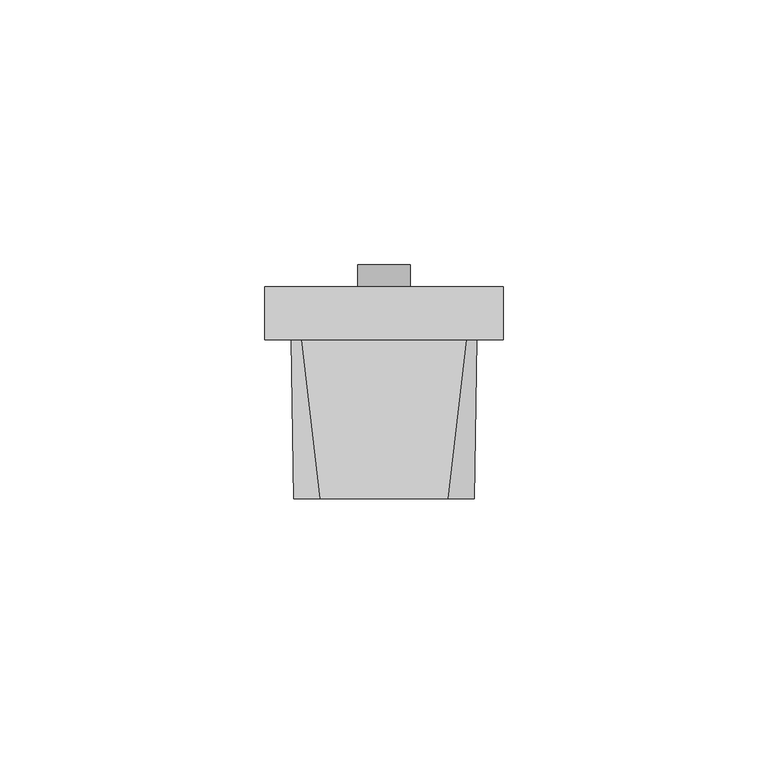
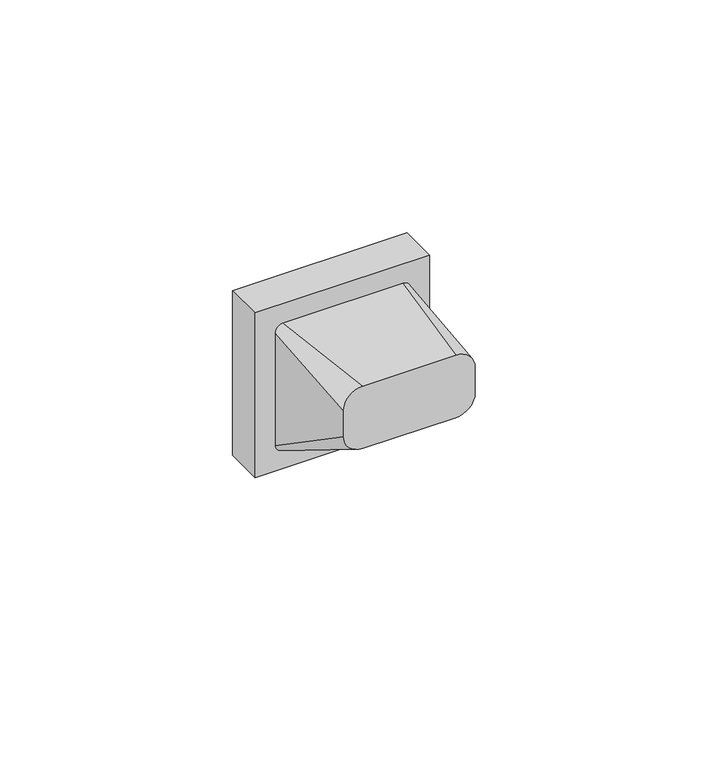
"""IFC4 building model written with IfcOpenShell, lengths in millimetres: proxy geometry, IEK_Skandy_Механизм розетки мультимедийной : TV О_SK-A12B."""

from ifc_helpers import new_model, si_unit, frame, origin, place, context, project, spatial, polyline, circle_curve, source, transform, mapped, element, save
from ifc_brep_helpers import plane_surface, cylinder_surface, revolved_surface, spline_surface, advanced_brep


def electrical_fixtures_0364c754(model_context):
    return source(origin(), model_context, "Body", "AdvancedBrep", [
        advanced_brep(
        [(-22.5, 10.0, 22.5), (22.5, 10.0, 22.5), (22.5, 10.0, -22.5), (-22.5, 10.0, -22.5), (-7.0, 10.0, 0.0), (7.0, 10.0, 0.0), (-22.5, 0.0, 22.5), (-22.5, 0.0, -22.5), (22.5, 0.0, -22.5), (22.5, 0.0, 22.5), (-7.0, 0.7271355, 0.0), (7.0, 0.7271355, 0.0)],
        [
            (0, 1),
            (1, 2),
            (2, 3),
            (3, 0),
            (4, 5, circle_curve(frame((0.0, 10.0, 0.0), z_axis=(0.0, -1.0, 0.0), x_axis=(1.0, 0.0, 0.0)), 7.0)),
            (5, 4, circle_curve(frame((0.0, 10.0, 0.0), z_axis=(0.0, -1.0, 0.0), x_axis=(1.0, 0.0, 0.0)), 7.0)),
            (6, 7),
            (7, 8),
            (8, 9),
            (9, 6),
            (3, 7),
            (6, 0),
            (2, 8),
            (1, 9),
            (10, 11, circle_curve(frame((0.0, 0.7271355, 0.0), z_axis=(0.0, 1.0, 0.0), x_axis=(1.0, 0.0, 0.0)), 7.0)),
            (11, 10, circle_curve(frame((0.0, 0.7271355, 0.0), z_axis=(0.0, 1.0, 0.0), x_axis=(1.0, 0.0, 0.0)), 7.0)),
            (11, 5),
            (4, 10),
        ],
        [
            plane_surface(frame((-22.5, 10.0, -22.5), z_axis=(0.0, 1.0, 0.0), x_axis=(0.0, 0.0, 1.0))),
            plane_surface(frame((-22.5, 0.0, -22.5), z_axis=(0.0, -1.0, 0.0), x_axis=(0.0, 0.0, -1.0))),
            plane_surface(frame((-22.5, 0.0, 22.5), z_axis=(-1.0, 0.0, 0.0), x_axis=(0.0, 1.0, 0.0))),
            plane_surface(frame((-22.5, 0.0, -22.5), z_axis=(0.0, 0.0, -1.0), x_axis=(0.0, 1.0, 0.0))),
            plane_surface(frame((22.5, 0.0, -22.5), z_axis=(1.0, 0.0, 0.0), x_axis=(0.0, 1.0, 0.0))),
            plane_surface(frame((22.5, 0.0, 22.5), z_axis=(0.0, 0.0, 1.0), x_axis=(0.0, 1.0, 0.0))),
            plane_surface(frame((7.0, 0.7271355, 0.0), z_axis=(0.0, 1.0, 0.0), x_axis=(0.0, 0.0, 1.0))),
            revolved_surface(polyline([(7.0, 0.7271354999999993, 0.0), (7.0, 10.0, 0.0)]), (0.0, 10.0, 0.0), (0.0, -1.0, 0.0)),
        ],
        [
            (0, [[1, 2, 3, 4], [5, 6]]),
            (1, [[7, 8, 9, 10]]),
            (2, [[-4, 11, -7, 12]]),
            (3, [[-3, 13, -8, -11]]),
            (4, [[-2, 14, -9, -13]]),
            (5, [[-1, -12, -10, -14]]),
            (6, [[15, 16]]),
            (7, [[-16, 17, -5, 18]]),
            (7, [[-15, -18, -6, -17]]),
        ],
    ),
        advanced_brep(
        [(-1.0543746, 8.9251664, 0.0), (1.0543746, 8.9251664, 0.0), (3.8412171, 8.9251664, 0.0), (-3.8412171, 8.9251664, 0.0), (3.8412171, 0.7715185, 0.0), (-3.8412171, 0.7715185, 0.0), (1.0543746, 0.7715185, 0.0), (-1.0543746, 0.7715185, 0.0)],
        [
            (0, 1, circle_curve(frame((0.0, 8.9251664, 0.0), z_axis=(0.0, -1.0, 0.0), x_axis=(1.0, 0.0, 0.0)), 1.0543746)),
            (1, 2),
            (2, 3, circle_curve(frame((0.0, 8.9251664, 0.0), z_axis=(0.0, 1.0, 0.0), x_axis=(1.0, 0.0, 0.0)), 3.8412171)),
            (3, 0),
            (1, 0, circle_curve(frame((0.0, 8.9251664, 0.0), z_axis=(0.0, -1.0, 0.0), x_axis=(1.0, 0.0, 0.0)), 1.0543746)),
            (3, 2, circle_curve(frame((0.0, 8.9251664, 0.0), z_axis=(0.0, 1.0, 0.0), x_axis=(1.0, 0.0, 0.0)), 3.8412171)),
            (2, 4),
            (4, 5, circle_curve(frame((0.0, 0.7715185, 0.0), z_axis=(0.0, 1.0, 0.0), x_axis=(1.0, 0.0, 0.0)), 3.8412171)),
            (5, 3),
            (5, 4, circle_curve(frame((0.0, 0.7715185, 0.0), z_axis=(0.0, 1.0, 0.0), x_axis=(1.0, 0.0, 0.0)), 3.8412171)),
            (4, 6),
            (6, 7, circle_curve(frame((0.0, 0.7715185, 0.0), z_axis=(0.0, 1.0, 0.0), x_axis=(1.0, 0.0, 0.0)), 1.0543746)),
            (7, 5),
            (7, 6, circle_curve(frame((0.0, 0.7715185, 0.0), z_axis=(0.0, 1.0, 0.0), x_axis=(1.0, 0.0, 0.0)), 1.0543746)),
            (6, 1),
            (0, 7),
        ],
        [
            plane_surface(frame((0.0, 8.9251664, 0.0), z_axis=(0.0, 1.0, 0.0), x_axis=(1.0, 0.0, 0.0))),
            cylinder_surface(frame((0.0, 0.0, 0.0), z_axis=(0.0, 1.0, 0.0), x_axis=(1.0, 0.0, 0.0)), 3.8412171),
            plane_surface(frame((0.0, 0.7715185, 0.0), z_axis=(0.0, -1.0, 0.0), x_axis=(1.0, 0.0, 0.0))),
            revolved_surface(polyline([(1.0543746, 8.9251664, 0.0), (1.0543746, 0.7715185, 0.0)]), (0.0, 0.0, 0.0), (0.0, 1.0, 0.0)),
        ],
        [
            (0, [[1, 2, 3, 4]]),
            (0, [[5, -4, 6, -2]]),
            (1, [[-3, 7, 8, 9]]),
            (1, [[-6, -9, 10, -7]]),
            (2, [[-8, 11, 12, 13]]),
            (2, [[-10, -13, 14, -11]]),
            (3, [[-12, 15, -1, 16]]),
            (3, [[-14, -16, -5, -15]]),
        ],
    ),
        advanced_brep(
        [(0.0, 13.2712404, 0.0), (0.9026489, 13.2712404, 0.0), (-0.9026489, 13.2712404, 0.0), (-0.9026489, 0.7271355, 0.0), (0.9026489, 0.7271355, 0.0), (0.0, 0.7271355, 0.0)],
        [
            (0, 1),
            (1, 2, circle_curve(frame((0.0, 13.2712404, 0.0), z_axis=(0.0, 1.0, 0.0), x_axis=(1.0, 0.0, 0.0)), 0.9026489)),
            (2, 0),
            (2, 1, circle_curve(frame((0.0, 13.2712404, 0.0), z_axis=(0.0, 1.0, 0.0), x_axis=(1.0, 0.0, 0.0)), 0.9026489)),
            (3, 4, circle_curve(frame((0.0, 0.7271355, 0.0), z_axis=(0.0, -1.0, 0.0), x_axis=(1.0, 0.0, 0.0)), 0.9026489)),
            (4, 5),
            (5, 3),
            (4, 3, circle_curve(frame((0.0, 0.7271355, 0.0), z_axis=(0.0, -1.0, 0.0), x_axis=(1.0, 0.0, 0.0)), 0.9026489)),
            (1, 4),
            (3, 2),
        ],
        [
            plane_surface(frame((0.0, 13.2712404, 0.0), z_axis=(0.0, 1.0, 0.0), x_axis=(1.0, 0.0, 0.0))),
            plane_surface(frame((0.0, 0.7271355, 0.0), z_axis=(0.0, -1.0, 0.0), x_axis=(1.0, 0.0, 0.0))),
            cylinder_surface(frame((0.0, 0.0, 0.0), z_axis=(0.0, 1.0, 0.0), x_axis=(1.0, 0.0, 0.0)), 0.9026489),
        ],
        [
            (0, [[1, 2, 3]]),
            (0, [[-3, 4, -1]]),
            (1, [[5, 6, 7]]),
            (1, [[8, -7, -6]]),
            (2, [[-2, 9, -5, 10]]),
            (2, [[-4, -10, -8, -9]]),
        ],
    ),
        advanced_brep(
        [(-5.0, 0.7271355, 0.0), (5.0, 0.7271355, 0.0), (4.0205306, 0.7271355, 0.0), (-4.0205306, 0.7271355, 0.0), (4.0205306, 11.0, 0.0), (-4.0205306, 11.0, 0.0), (4.0205306, 14.1430385, 0.0), (-4.0205306, 14.1430385, 0.0), (5.0, 14.1430385, 0.0), (-5.0, 14.1430385, 0.0)],
        [
            (0, 1, circle_curve(frame((0.0, 0.7271355, 0.0), z_axis=(0.0, -1.0, 0.0), x_axis=(1.0, 0.0, 0.0)), 5.0)),
            (1, 2),
            (2, 3, circle_curve(frame((0.0, 0.7271355, 0.0), z_axis=(0.0, 1.0, 0.0), x_axis=(1.0, 0.0, 0.0)), 4.0205306)),
            (3, 0),
            (1, 0, circle_curve(frame((0.0, 0.7271355, 0.0), z_axis=(0.0, -1.0, 0.0), x_axis=(1.0, 0.0, 0.0)), 5.0)),
            (3, 2, circle_curve(frame((0.0, 0.7271355, 0.0), z_axis=(0.0, 1.0, 0.0), x_axis=(1.0, 0.0, 0.0)), 4.0205306)),
            (2, 4),
            (4, 5, circle_curve(frame((0.0, 11.0, 0.0), z_axis=(0.0, 1.0, 0.0), x_axis=(1.0, 0.0, 0.0)), 4.0205306)),
            (5, 3),
            (5, 4, circle_curve(frame((0.0, 11.0, 0.0), z_axis=(0.0, 1.0, 0.0), x_axis=(1.0, 0.0, 0.0)), 4.0205306)),
            (4, 6),
            (6, 7, circle_curve(frame((0.0, 14.1430385, 0.0), z_axis=(0.0, 1.0, 0.0), x_axis=(1.0, 0.0, 0.0)), 4.0205306)),
            (7, 5),
            (7, 6, circle_curve(frame((0.0, 14.1430385, 0.0), z_axis=(0.0, 1.0, 0.0), x_axis=(1.0, 0.0, 0.0)), 4.0205306)),
            (6, 8),
            (8, 9, circle_curve(frame((0.0, 14.1430385, 0.0), z_axis=(0.0, 1.0, 0.0), x_axis=(1.0, 0.0, 0.0)), 5.0)),
            (9, 7),
            (9, 8, circle_curve(frame((0.0, 14.1430385, 0.0), z_axis=(0.0, 1.0, 0.0), x_axis=(1.0, 0.0, 0.0)), 5.0)),
            (8, 1),
            (0, 9),
        ],
        [
            plane_surface(frame((0.0, 0.7271355, 0.0), z_axis=(0.0, -1.0, 0.0), x_axis=(1.0, 0.0, 0.0))),
            revolved_surface(polyline([(4.0205306, 11.0, 0.0), (4.0205306, 0.7271354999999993, 0.0)]), (0.0, 10.0, 0.0), (0.0, 1.0, 0.0)),
            revolved_surface(polyline([(4.0205306, 14.1430385, 0.0), (4.0205306, 11.0, 0.0)]), (0.0, 10.0, 0.0), (0.0, 1.0, 0.0)),
            plane_surface(frame((0.0, 14.1430385, 0.0), z_axis=(0.0, 1.0, 0.0), x_axis=(1.0, 0.0, 0.0))),
            cylinder_surface(frame((0.0, 10.0, 0.0), z_axis=(0.0, 1.0, 0.0), x_axis=(1.0, 0.0, 0.0)), 5.0),
        ],
        [
            (0, [[1, 2, 3, 4]]),
            (0, [[5, -4, 6, -2]]),
            (1, [[-3, 7, 8, 9]]),
            (1, [[-6, -9, 10, -7]]),
            (2, [[-8, 11, 12, 13]]),
            (2, [[-10, -13, 14, -11]]),
            (3, [[-12, 15, 16, 17]]),
            (3, [[-14, -17, 18, -15]]),
            (4, [[-16, 19, -1, 20]]),
            (4, [[-18, -20, -5, -19]]),
        ],
    ),
        advanced_brep(
        [(-12.0, -30.0, 17.0), (-17.0, -30.0, 12.0), (-17.0, -30.0, 5.0), (-12.0, -30.0, 0.0), (12.0, -30.0, 0.0), (17.0, -30.0, 5.0), (17.0, -30.0, 12.0), (12.0, -30.0, 17.0), (-15.5, 0.0, 17.5), (15.5, 0.0, 17.5), (17.5, 0.0, 15.5), (17.5, 0.0, -15.5), (15.5, 0.0, -17.5), (-15.5, 0.0, -17.5), (-17.5, 0.0, -15.5), (-17.5, 0.0, 15.5)],
        [
            (0, 1, circle_curve(frame((-12.0, -30.0, 12.0), z_axis=(0.0, -1.0, 0.0), x_axis=(1.0, 0.0, 0.0)), 5.0)),
            (1, 2),
            (2, 3, circle_curve(frame((-12.0, -30.0, 5.0), z_axis=(0.0, -1.0, 0.0), x_axis=(1.0, 0.0, 0.0)), 5.0)),
            (3, 4),
            (4, 5, circle_curve(frame((12.0, -30.0, 5.0), z_axis=(0.0, -1.0, 0.0), x_axis=(1.0, 0.0, 0.0)), 5.0)),
            (5, 6),
            (6, 7, circle_curve(frame((12.0, -30.0, 12.0), z_axis=(0.0, -1.0, 0.0), x_axis=(1.0, 0.0, 0.0)), 5.0)),
            (7, 0),
            (8, 9),
            (9, 10, circle_curve(frame((15.5, 0.0, 15.5), z_axis=(0.0, 1.0, 0.0), x_axis=(1.0, 0.0, 0.0)), 2.0)),
            (10, 11),
            (11, 12, circle_curve(frame((15.5, 0.0, -15.5), z_axis=(0.0, 1.0, 0.0), x_axis=(1.0, 0.0, 0.0)), 2.0)),
            (12, 13),
            (13, 14, circle_curve(frame((-15.5, 0.0, -15.5), z_axis=(0.0, 1.0, 0.0), x_axis=(1.0, 0.0, 0.0)), 2.0)),
            (14, 15),
            (15, 8, circle_curve(frame((-15.5, 0.0, 15.5), z_axis=(0.0, 1.0, 0.0), x_axis=(1.0, 0.0, 0.0)), 2.0)),
            (8, 0),
            (7, 9),
            (6, 10),
            (5, 11),
            (4, 12),
            (3, 13),
            (15, 1),
            (14, 2),
        ],
        [
            plane_surface(frame((0.0, -30.0, 8.5), z_axis=(0.0, -1.0, 0.0), x_axis=(-1.0, 0.0, 0.0))),
            plane_surface(frame((0.0, 0.0, 0.0), z_axis=(0.0, 1.0, 0.0), x_axis=(-1.0, 0.0, 0.0))),
            plane_surface(frame((0.0, 0.0, 17.5), z_axis=(0.0, -0.01666435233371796, 0.9998611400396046), x_axis=(-1.0, 0.0, 0.0))),
            spline_surface(2, 1, [[(17.5, 0.0, 15.5), (17.0, -30.0, 12.0)], [(17.5, 0.0, 17.5), (17.0, -30.0, 17.0)], [(15.5, 0.0, 17.5), (12.0, -30.0, 17.0)]], [3, 3], [2, 2], [0.0, 1.0], [0.0, 1.0], weights=[[1.0, 1.0], [0.7071067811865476, 0.7071067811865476], [1.0, 1.0]]),
            plane_surface(frame((17.5, 0.0, 0.0), z_axis=(0.9998611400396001, -0.016664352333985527, 0.0), x_axis=(0.0, 0.0, 1.0))),
            spline_surface(2, 1, [[(15.5, 0.0, -17.5), (12.0, -30.0, 0.0)], [(17.5, 0.0, -17.5), (17.0, -30.0, 0.0)], [(17.5, 0.0, -15.5), (17.0, -30.0, 5.0)]], [3, 3], [2, 2], [0.0, 1.0], [0.0, 1.0], weights=[[1.0, 1.0], [0.7071067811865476, 0.7071067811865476], [1.0, 1.0]]),
            plane_surface(frame((0.0, 0.0, -17.5), z_axis=(0.0, -0.5038710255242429, -0.863778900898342), x_axis=(1.0, 0.0, 0.0))),
            spline_surface(2, 1, [[(-15.5, 0.0, 17.5), (-12.0, -30.0, 17.0)], [(-17.5, 0.0, 17.5), (-17.0, -30.0, 17.0)], [(-17.5, 0.0, 15.5), (-17.0, -30.0, 12.0)]], [3, 3], [2, 2], [0.0, 1.0], [0.0, 1.0], weights=[[1.0, 1.0], [0.7071067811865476, 0.7071067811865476], [1.0, 1.0]]),
            plane_surface(frame((-17.5, 0.0, 0.0), z_axis=(-0.9998611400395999, -0.01666435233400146, 0.0), x_axis=(0.0, 0.0, -1.0))),
            spline_surface(2, 1, [[(-17.5, 0.0, -15.5), (-17.0, -30.0, 5.0)], [(-17.5, 0.0, -17.5), (-17.0, -30.0, 0.0)], [(-15.5, 0.0, -17.5), (-12.0, -30.0, 0.0)]], [3, 3], [2, 2], [0.0, 1.0], [0.0, 1.0], weights=[[1.0, 1.0], [0.7071067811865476, 0.7071067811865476], [1.0, 1.0]]),
        ],
        [
            (0, [[1, 2, 3, 4, 5, 6, 7, 8]]),
            (1, [[9, 10, 11, 12, 13, 14, 15, 16]]),
            (2, [[-9, 17, -8, 18]]),
            (3, [[-10, -18, -7, 19]]),
            (4, [[-11, -19, -6, 20]]),
            (5, [[-12, -20, -5, 21]]),
            (6, [[-13, -21, -4, 22]]),
            (7, [[-16, 23, -1, -17]]),
            (8, [[-15, 24, -2, -23]]),
            (9, [[-14, -22, -3, -24]]),
        ],
    ),
    ])


if __name__ == "__main__":
    model = new_model("IFC4")
    model_context = context("Model", 3, world=origin())
    ifc_project = project(units=[si_unit("LENGTHUNIT", "METRE", prefix="MILLI")], contexts=[model_context])
    site = spatial("IfcSite", under=ifc_project)
    building = spatial("IfcBuilding", under=site)
    placement = place(None, origin())
    electrical_fixtures_shape = electrical_fixtures_0364c754(model_context)
    element("IfcBuildingElementProxy", 1, Name="IEK_Skandy_Механизм розетки мультимедийной : TV О_SK-A12B", ObjectType="IEK_Skandy_Механизм розетки мультимедийной : TV О_SK-A12B", at=placement, inside=building, context=model_context, shape_type="MappedRepresentation", body=[
        mapped(electrical_fixtures_shape, transform((0.0, 0.0, 0.0), x_axis=(1.0, 0.0, 0.0), y_axis=(0.0, 1.0, 0.0), z_axis=(0.0, 0.0, 1.0))),
    ])
    save(model, "model.ifc")
